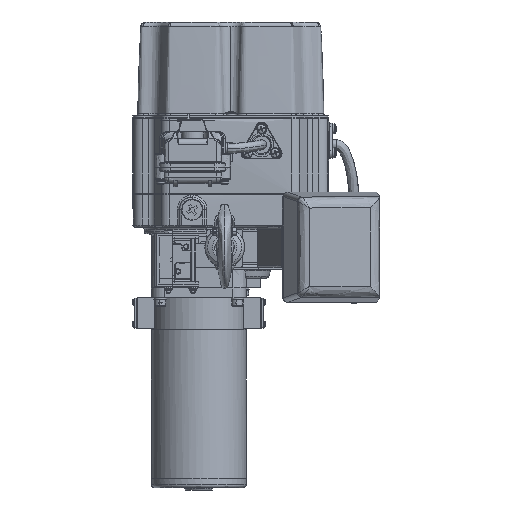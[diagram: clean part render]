
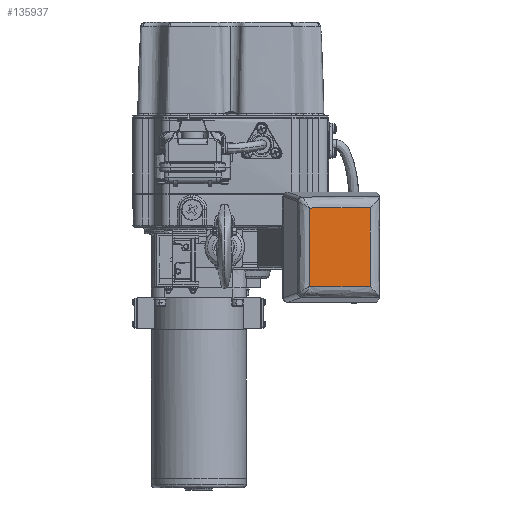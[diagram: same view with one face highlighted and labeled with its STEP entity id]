
A CAD part, front view. The second image highlights one B-rep face of the part: STEP entity #135937.
In plain terms, the highlighted free-form (B-spline) face has degree [1, 1] with [2, 2] control points.
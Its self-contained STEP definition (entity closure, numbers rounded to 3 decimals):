
#4278 = CARTESIAN_POINT ( 'NONE',  ( 57.695, -203.126, 35.579 ) ) ;
#4517 = CARTESIAN_POINT ( 'NONE',  ( 57.695, -203.126, 35.579 ) ) ;
#5812 = CARTESIAN_POINT ( 'NONE',  ( 112.681, -196.013, 35.844 ) ) ;
#24786 = CARTESIAN_POINT ( 'NONE',  ( 57.695, -203.126, -35.579 ) ) ;
#25732 = CARTESIAN_POINT ( 'NONE',  ( 94.352, -198.384, -35.756 ) ) ;
#29665 = CARTESIAN_POINT ( 'NONE',  ( 76.023, -200.755, 35.667 ) ) ;
#34979 = VERTEX_POINT ( 'NONE', #5812 ) ;
#36480 = ORIENTED_EDGE ( 'NONE', *, *, #139921, .T. ) ;
#39280 = CARTESIAN_POINT ( 'NONE',  ( 112.681, -196.013, -36.274 ) ) ;
#45715 = CARTESIAN_POINT ( 'NONE',  ( 112.681, -196.013, 35.844 ) ) ;
#58426 = CARTESIAN_POINT ( 'NONE',  ( 94.352, -198.384, 35.756 ) ) ;
#59895 = ORIENTED_EDGE ( 'NONE', *, *, #149062, .T. ) ;
#68496 = EDGE_LOOP ( 'NONE', ( #104088, #36480, #170975, #59895 ) ) ;
#83272 = CARTESIAN_POINT ( 'NONE',  ( 76.023, -200.755, -35.667 ) ) ;
#84219 = CARTESIAN_POINT ( 'NONE',  ( 112.681, -196.013, -35.844 ) ) ;
#86264 = FACE_OUTER_BOUND ( 'NONE', #68496, .T. ) ;
#86269 = B_SPLINE_SURFACE_WITH_KNOTS ( 'NONE', 1, 1, ( 
 ( #140999, #112222 ),
 ( #39280, #97812 ) ),
 .UNSPECIFIED., .F., .F., .F.,
 ( 2, 2 ),
 ( 2, 2 ),
 ( 0., 1. ),
 ( 0., 1. ),
 .UNSPECIFIED. ) ;
#88137 = CARTESIAN_POINT ( 'NONE',  ( 57.695, -203.126, 35.579 ) ) ;
#88866 = CARTESIAN_POINT ( 'NONE',  ( 57.695, -203.126, -35.579 ) ) ;
#90801 = B_SPLINE_CURVE_WITH_KNOTS ( 'NONE', 1,
 ( #189607, #45715 ),
 .UNSPECIFIED., .F., .F.,
 ( 2, 2 ),
 ( 0., 1. ),
 .UNSPECIFIED. ) ;
#97812 = CARTESIAN_POINT ( 'NONE',  ( 112.681, -196.013, 36.274 ) ) ;
#103995 = CARTESIAN_POINT ( 'NONE',  ( 112.681, -196.013, -35.844 ) ) ;
#104088 = ORIENTED_EDGE ( 'NONE', *, *, #141946, .T. ) ;
#112222 = CARTESIAN_POINT ( 'NONE',  ( 57.695, -203.126, 36.274 ) ) ;
#114970 = EDGE_CURVE ( 'NONE', #115246, #34979, #90801, .T. ) ;
#115246 = VERTEX_POINT ( 'NONE', #103995 ) ;
#118896 = VERTEX_POINT ( 'NONE', #183869 ) ;
#134298 = B_SPLINE_CURVE_WITH_KNOTS ( 'NONE', 3,
 ( #24786, #83272, #25732, #84219 ),
 .UNSPECIFIED., .F., .F.,
 ( 4, 4 ),
 ( 0., 1. ),
 .UNSPECIFIED. ) ;
#135937 = ADVANCED_FACE ( 'NONE', ( #86264 ), #86269, .T. ) ;
#139921 = EDGE_CURVE ( 'NONE', #118896, #115246, #134298, .T. ) ;
#140999 = CARTESIAN_POINT ( 'NONE',  ( 57.695, -203.126, -36.274 ) ) ;
#141946 = EDGE_CURVE ( 'NONE', #162600, #118896, #172190, .T. ) ;
#145711 = CARTESIAN_POINT ( 'NONE',  ( 112.681, -196.013, 35.844 ) ) ;
#149062 = EDGE_CURVE ( 'NONE', #34979, #162600, #179628, .T. ) ;
#162600 = VERTEX_POINT ( 'NONE', #4278 ) ;
#170975 = ORIENTED_EDGE ( 'NONE', *, *, #114970, .T. ) ;
#172190 = B_SPLINE_CURVE_WITH_KNOTS ( 'NONE', 1,
 ( #4517, #88866 ),
 .UNSPECIFIED., .F., .F.,
 ( 2, 2 ),
 ( 0., 1. ),
 .UNSPECIFIED. ) ;
#179628 = B_SPLINE_CURVE_WITH_KNOTS ( 'NONE', 3,
 ( #145711, #58426, #29665, #88137 ),
 .UNSPECIFIED., .F., .F.,
 ( 4, 4 ),
 ( 0., 1. ),
 .UNSPECIFIED. ) ;
#183869 = CARTESIAN_POINT ( 'NONE',  ( 57.695, -203.126, -35.579 ) ) ;
#189607 = CARTESIAN_POINT ( 'NONE',  ( 112.681, -196.013, -35.844 ) ) ;
